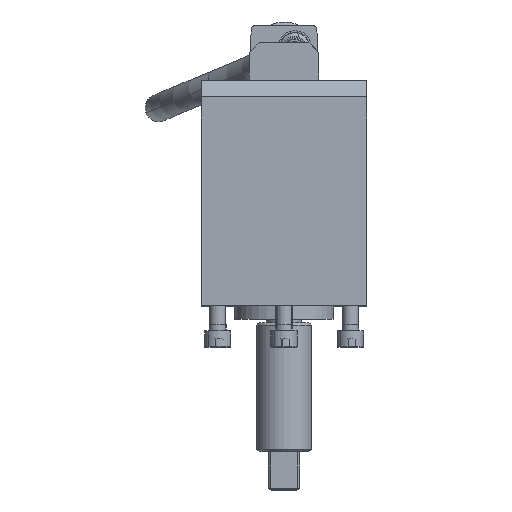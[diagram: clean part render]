
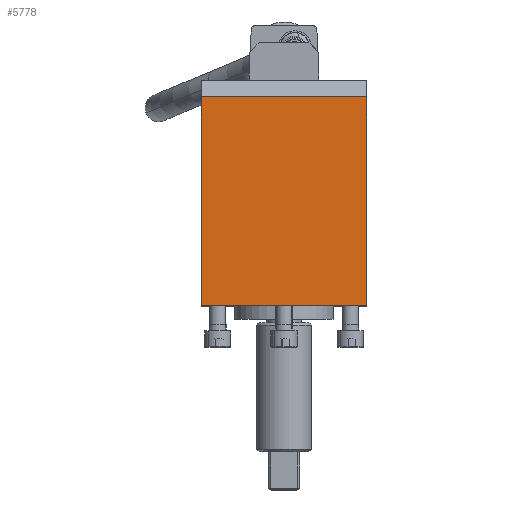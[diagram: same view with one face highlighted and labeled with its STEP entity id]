
A CAD part, top view. The second image highlights one B-rep face of the part: STEP entity #5778.
In plain terms, the highlighted planar face has unit normal (0, 0, 1).
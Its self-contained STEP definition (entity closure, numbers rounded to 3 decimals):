
#5744=AXIS2_PLACEMENT_3D('Plane Axis2P3D',#5741,#5742,#5743) ;
#5116=CARTESIAN_POINT('Line Origine',(0.,-86.,691.6)) ;
#5120=CARTESIAN_POINT('Vertex',(50.,-86.,691.6)) ;
#5122=CARTESIAN_POINT('Vertex',(-50.,-86.,691.6)) ;
#5712=CARTESIAN_POINT('Vertex',(-50.,40.,691.6)) ;
#5715=CARTESIAN_POINT('Line Origine',(0.,40.,691.6)) ;
#5719=CARTESIAN_POINT('Vertex',(50.,40.,691.6)) ;
#5741=CARTESIAN_POINT('Axis2P3D Location',(0.,-59.,691.6)) ;
#5746=CARTESIAN_POINT('Line Origine',(50.,-72.5,691.6)) ;
#5750=CARTESIAN_POINT('Vertex',(50.,-59.,691.6)) ;
#5753=CARTESIAN_POINT('Line Origine',(50.,-9.5,691.6)) ;
#5758=CARTESIAN_POINT('Line Origine',(-50.,-9.5,691.6)) ;
#5762=CARTESIAN_POINT('Vertex',(-50.,-59.,691.6)) ;
#5765=CARTESIAN_POINT('Line Origine',(-50.,-72.5,691.6)) ;
#5117=DIRECTION('Vector Direction',(-1.,0.,0.)) ;
#5716=DIRECTION('Vector Direction',(-1.,0.,0.)) ;
#5742=DIRECTION('Axis2P3D Direction',(0.,0.,1.)) ;
#5743=DIRECTION('Axis2P3D XDirection',(0.,1.,0.)) ;
#5747=DIRECTION('Vector Direction',(0.,-1.,0.)) ;
#5754=DIRECTION('Vector Direction',(0.,1.,0.)) ;
#5759=DIRECTION('Vector Direction',(0.,1.,0.)) ;
#5766=DIRECTION('Vector Direction',(0.,-1.,0.)) ;
#5118=VECTOR('Line Direction',#5117,1.) ;
#5717=VECTOR('Line Direction',#5716,1.) ;
#5748=VECTOR('Line Direction',#5747,1.) ;
#5755=VECTOR('Line Direction',#5754,1.) ;
#5760=VECTOR('Line Direction',#5759,1.) ;
#5767=VECTOR('Line Direction',#5766,1.) ;
#5771=ORIENTED_EDGE('',*,*,#5752,.F.) ;
#5772=ORIENTED_EDGE('',*,*,#5757,.F.) ;
#5773=ORIENTED_EDGE('',*,*,#5721,.T.) ;
#5774=ORIENTED_EDGE('',*,*,#5764,.T.) ;
#5775=ORIENTED_EDGE('',*,*,#5769,.T.) ;
#5776=ORIENTED_EDGE('',*,*,#5124,.F.) ;
#5778=ADVANCED_FACE('AW-325.1\\AW3125.1\\Hauptk\X2\00F6\X0\rper',(#5777),#5745,.T.) ;
#5124=EDGE_CURVE('',#5121,#5123,#5119,.T.) ;
#5721=EDGE_CURVE('',#5720,#5713,#5718,.T.) ;
#5752=EDGE_CURVE('',#5751,#5121,#5749,.T.) ;
#5757=EDGE_CURVE('',#5720,#5751,#5756,.F.) ;
#5764=EDGE_CURVE('',#5713,#5763,#5761,.F.) ;
#5769=EDGE_CURVE('',#5763,#5123,#5768,.T.) ;
#5770=EDGE_LOOP('',(#5771,#5772,#5773,#5774,#5775,#5776)) ;
#5777=FACE_OUTER_BOUND('',#5770,.T.) ;
#5119=LINE('Line',#5116,#5118) ;
#5718=LINE('Line',#5715,#5717) ;
#5749=LINE('Line',#5746,#5748) ;
#5756=LINE('Line',#5753,#5755) ;
#5761=LINE('Line',#5758,#5760) ;
#5768=LINE('Line',#5765,#5767) ;
#5745=PLANE('Plane',#5744) ;
#5121=VERTEX_POINT('',#5120) ;
#5123=VERTEX_POINT('',#5122) ;
#5713=VERTEX_POINT('',#5712) ;
#5720=VERTEX_POINT('',#5719) ;
#5751=VERTEX_POINT('',#5750) ;
#5763=VERTEX_POINT('',#5762) ;
